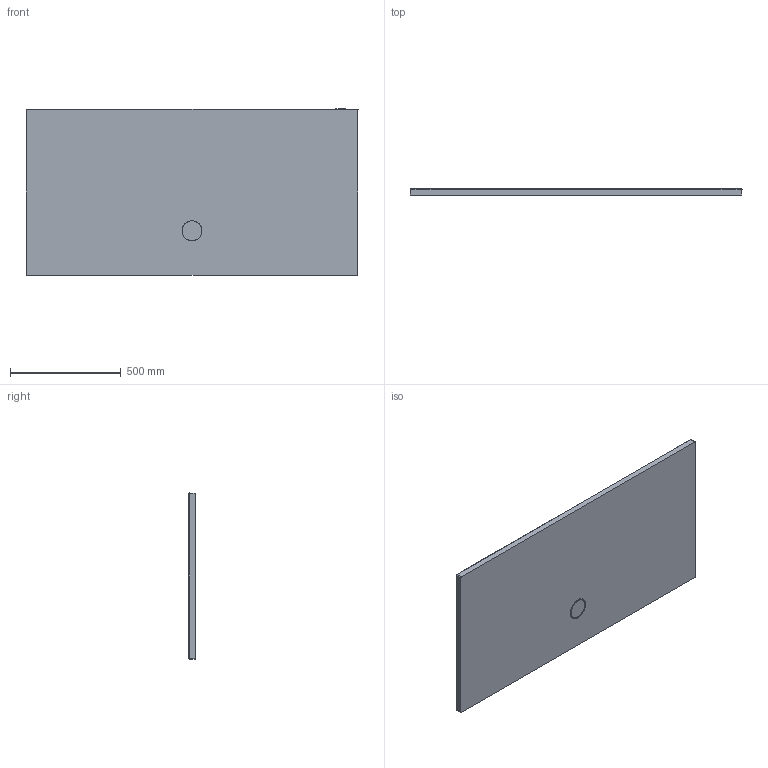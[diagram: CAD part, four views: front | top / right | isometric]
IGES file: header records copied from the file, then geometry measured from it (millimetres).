
Start section: SolidWorks IGES file using analytic representation for surfaces
Global section: file name: Y:\TKT\_PLIKI DLA ARCHITEKTÓW\02_AKRYL\BRODZIKI\seria SPACE MINERAL\IGS\B_M_75x150x1,5.IGS; native system: SolidWorks 2011; preprocessor: SolidWorks 2011; author: M.Szymanski; date: 180215.142823; units: millimetre
Bounding box: 1500 x 30 x 750 mm (x, y, z)
Surface area: 2397595.8 mm2 (no closed solid volume)
Topology: 0 solids, 0 shells, 61 faces, 737 edges, 734 vertices
Faces by surface type: bspline 39, revolution 22
